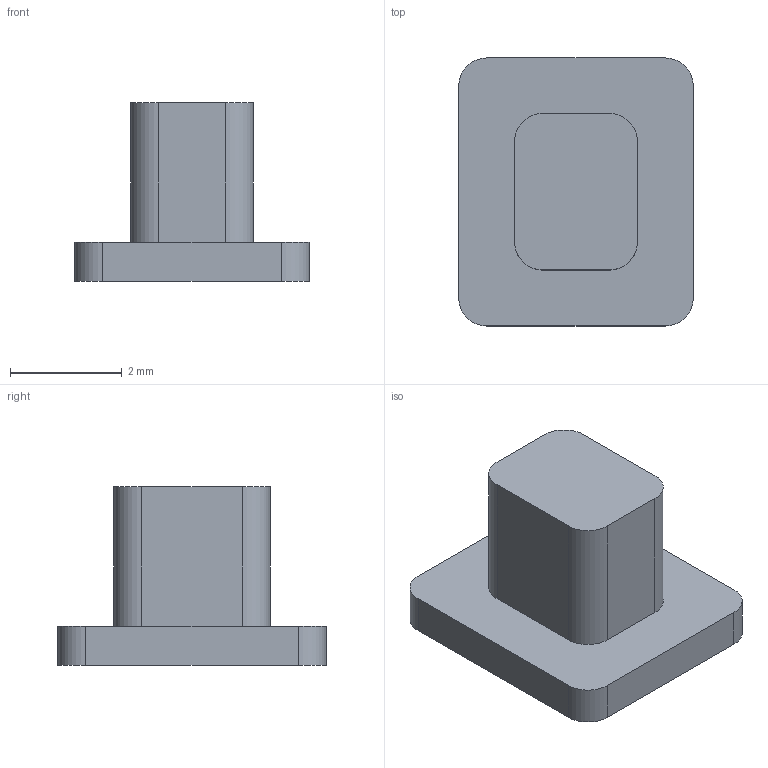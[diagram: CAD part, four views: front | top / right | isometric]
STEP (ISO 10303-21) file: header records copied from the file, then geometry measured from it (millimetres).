
FILE_DESCRIPTION (( 'STEP AP203' ), '1' );
FILE_NAME ('Computer_Cover_Botton.STEP');
FILE_SCHEMA (( 'CONFIG_CONTROL_DESIGN' ));
Length unit declared in the file: millimetre
Products named in the file (1): Computer_Cover_Botton
Bounding box: 4.2 x 4.8 x 3.2 mm (x, y, z)
Volume: 28.8 mm3; surface area: 74.7 mm2
Topology: 1 solids, 1 shells, 19 faces, 48 edges, 32 vertices
Faces by surface type: plane 11, cylinder 8
Entity records: 655 total; most frequent: DIRECTION 104, CARTESIAN_POINT 100, ORIENTED_EDGE 96, EDGE_CURVE 48, AXIS2_PLACEMENT_3D 36, VERTEX_POINT 32, LINE 32, VECTOR 32
